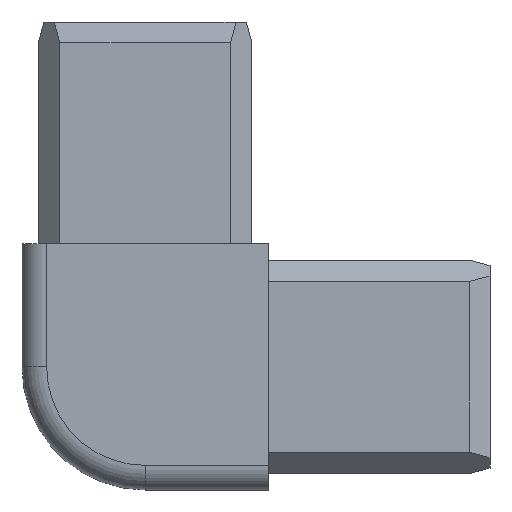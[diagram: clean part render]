
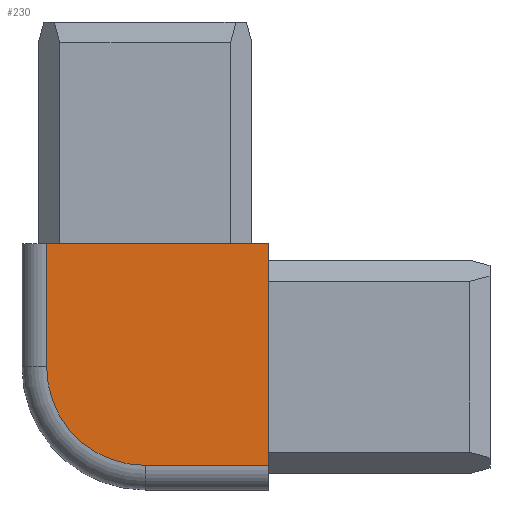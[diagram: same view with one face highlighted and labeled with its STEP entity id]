
A CAD part, left-side view. The second image highlights one B-rep face of the part: STEP entity #230.
In plain terms, the highlighted planar face has unit normal (-1, 0, 0).
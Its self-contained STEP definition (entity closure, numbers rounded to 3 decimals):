
#87 = CARTESIAN_POINT ( 'NONE',  ( -15., 12., 42. ) ) ;
#100 = LINE ( 'NONE', #541, #1171 ) ;
#169 = DIRECTION ( 'NONE',  ( 0., 1., 0. ) ) ;
#225 = CARTESIAN_POINT ( 'NONE',  ( -15., -15., 15. ) ) ;
#230 = ADVANCED_FACE ( 'NONE', ( #260 ), #355, .F. ) ;
#260 = FACE_OUTER_BOUND ( 'NONE', #423, .T. ) ;
#266 = CARTESIAN_POINT ( 'NONE',  ( -15., 15., 42. ) ) ;
#276 = LINE ( 'NONE', #87, #373 ) ;
#322 = DIRECTION ( 'NONE',  ( 0., -1., 0. ) ) ;
#345 = CIRCLE ( 'NONE', #971, 12. ) ;
#355 = PLANE ( 'NONE',  #1026 ) ;
#373 = VECTOR ( 'NONE', #727, 1000. ) ;
#390 = EDGE_CURVE ( 'NONE', #1153, #977, #276, .T. ) ;
#401 = EDGE_CURVE ( 'NONE', #977, #1071, #345, .T. ) ;
#423 = EDGE_LOOP ( 'NONE', ( #1260, #465, #780, #520, #707 ) ) ;
#465 = ORIENTED_EDGE ( 'NONE', *, *, #847, .T. ) ;
#520 = ORIENTED_EDGE ( 'NONE', *, *, #700, .T. ) ;
#541 = CARTESIAN_POINT ( 'NONE',  ( -15., 15., -12. ) ) ;
#564 = CARTESIAN_POINT ( 'NONE',  ( -15., 12., 0. ) ) ;
#675 = DIRECTION ( 'NONE',  ( 0., 0., -1. ) ) ;
#689 = CARTESIAN_POINT ( 'NONE',  ( -15., 0., -12. ) ) ;
#700 = EDGE_CURVE ( 'NONE', #742, #1153, #835, .T. ) ;
#707 = ORIENTED_EDGE ( 'NONE', *, *, #390, .T. ) ;
#727 = DIRECTION ( 'NONE',  ( 0., 0., -1. ) ) ;
#742 = VERTEX_POINT ( 'NONE', #758 ) ;
#758 = CARTESIAN_POINT ( 'NONE',  ( -15., -15., 15. ) ) ;
#780 = ORIENTED_EDGE ( 'NONE', *, *, #967, .F. ) ;
#805 = DIRECTION ( 'NONE',  ( 0., 1., 0. ) ) ;
#817 = CARTESIAN_POINT ( 'NONE',  ( -15., -42., 15. ) ) ;
#835 = LINE ( 'NONE', #817, #1275 ) ;
#847 = EDGE_CURVE ( 'NONE', #1071, #1307, #100, .T. ) ;
#967 = EDGE_CURVE ( 'NONE', #742, #1307, #1229, .T. ) ;
#971 = AXIS2_PLACEMENT_3D ( 'NONE', #1168, #972, #169 ) ;
#972 = DIRECTION ( 'NONE',  ( -1., 0., 0. ) ) ;
#977 = VERTEX_POINT ( 'NONE', #564 ) ;
#1026 = AXIS2_PLACEMENT_3D ( 'NONE', #266, #1029, #805 ) ;
#1029 = DIRECTION ( 'NONE',  ( 1., 0., 0. ) ) ;
#1071 = VERTEX_POINT ( 'NONE', #689 ) ;
#1153 = VERTEX_POINT ( 'NONE', #1414 ) ;
#1168 = CARTESIAN_POINT ( 'NONE',  ( -15., 0., 0. ) ) ;
#1171 = VECTOR ( 'NONE', #322, 1000. ) ;
#1229 = LINE ( 'NONE', #225, #1429 ) ;
#1260 = ORIENTED_EDGE ( 'NONE', *, *, #401, .T. ) ;
#1275 = VECTOR ( 'NONE', #1375, 1000. ) ;
#1307 = VERTEX_POINT ( 'NONE', #1311 ) ;
#1311 = CARTESIAN_POINT ( 'NONE',  ( -15., -15., -12. ) ) ;
#1375 = DIRECTION ( 'NONE',  ( 0., 1., 0. ) ) ;
#1414 = CARTESIAN_POINT ( 'NONE',  ( -15., 12., 15. ) ) ;
#1429 = VECTOR ( 'NONE', #675, 1000. ) ;
